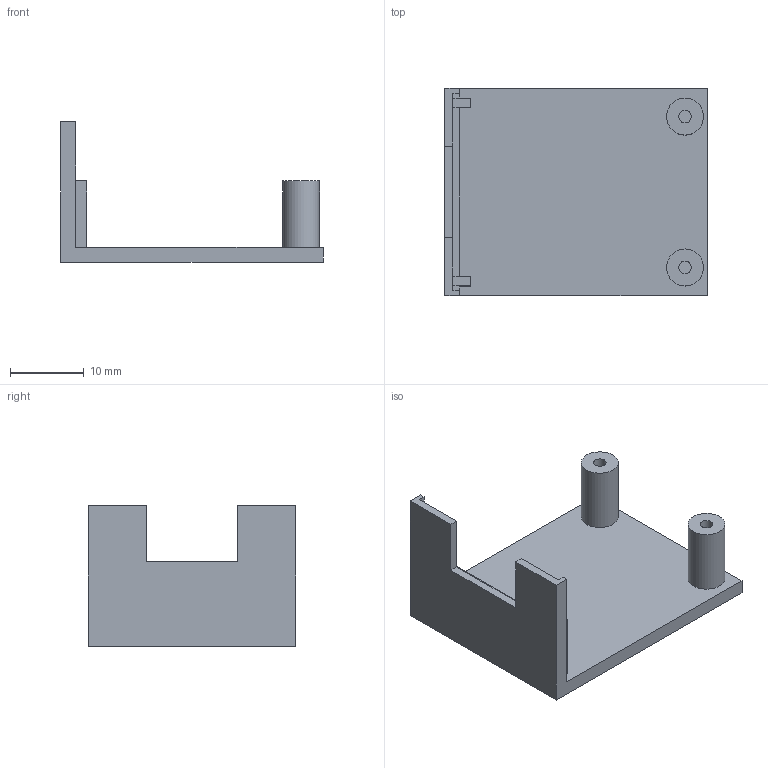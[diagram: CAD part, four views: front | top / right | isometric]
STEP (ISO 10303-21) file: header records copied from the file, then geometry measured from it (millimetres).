
FILE_DESCRIPTION(('Open CASCADE Model'),'2;1');
FILE_NAME('Open CASCADE Shape Model','2026-11-08T21:30:43',('Author'),( 'Open CASCADE'),'Open CASCADE STEP processor 7.8','Open CASCADE 7.8' ,'Unknown');
FILE_SCHEMA(('AUTOMOTIVE_DESIGN { 1 0 10303 214 1 1 1 1 }'));
Length unit declared in the file: millimetre
Products named in the file (1): Open CASCADE STEP translator 7.8 7
Bounding box: 35.5 x 28 x 19 mm (x, y, z)
Volume: 2986.6 mm3; surface area: 3533.3 mm2
Topology: 1 solids, 1 shells, 36 faces, 90 edges, 60 vertices
Faces by surface type: plane 32, cylinder 4
Full cylindrical faces by diameter (mm): 1.7 x2, 5 x2
Entity records: 2178 total; most frequent: CARTESIAN_POINT 467, DIRECTION 272, ORIENTED_EDGE 180, PCURVE 180, DEFINITIONAL_REPRESENTATION 180, LINE 178, VECTOR 178, EDGE_CURVE 90
